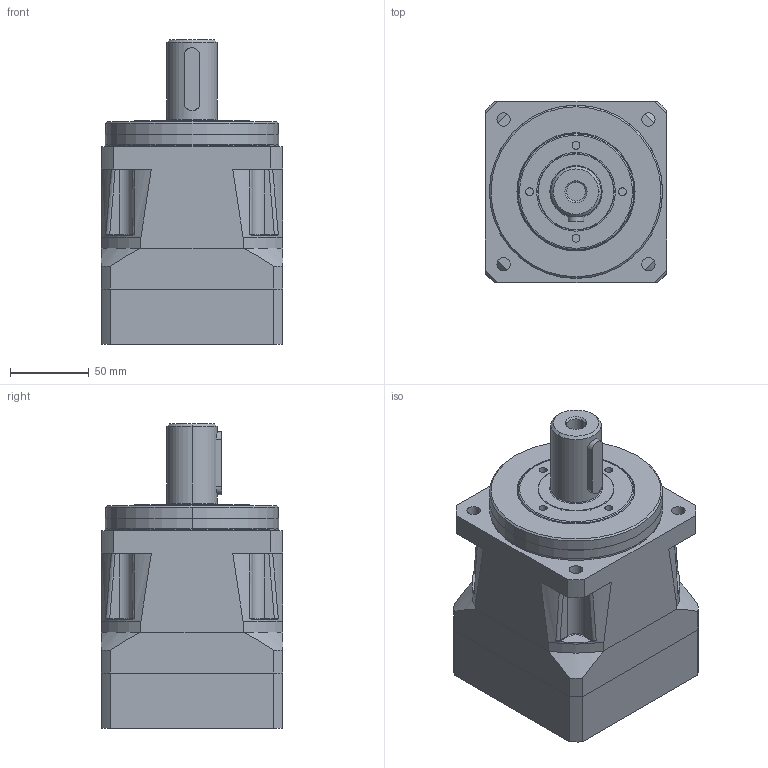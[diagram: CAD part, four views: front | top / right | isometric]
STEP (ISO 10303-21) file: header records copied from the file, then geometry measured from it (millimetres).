
FILE_DESCRIPTION((''),'2;1');
FILE_NAME('PS115-XXX-000-X2_ASM','2009-03-24T',('ata7311'),(''),'PRO/ENGINEER BY PARAMETRIC TECHNOLOGY CORPORATION, 2006300','PRO/ENGINEER BY PARAMETRIC TECHNOLOGY CORPORATION, 2006300','');
FILE_SCHEMA(('CONFIG_CONTROL_DESIGN'));
Products named in the file (14): 13359XXX; 13363000; HD202-0007; 10087125; 13355XXX_ASM; 13364000; 13360XXX; 13120003; M6X25; 12292001; 13356XXX_ASM; 13458005; M6X50; PS115-XXX-000-X2_ASM
Assembly tree (17 placements, depth 3):
  PS115-XXX-000-X2_ASM
    13355XXX_ASM
      13359XXX
      13363000
      HD202-0007
      10087125
    13356XXX_ASM
      13364000
      13360XXX
      13120003
      M6X25
      12292001  x2
    13458005
    M6X50  x4
Bounding box: 115 x 115.01 x 193.2 mm (x, y, z)
Volume: 1094035.2 mm3; surface area: 234693.6 mm2
Topology: 15 solids, 15 shells, 501 faces, 1163 edges, 748 vertices
Faces by surface type: cylinder 224, plane 179, cone 50, torus 24, bspline 24
Entity records: 14216 total; most frequent: CARTESIAN_POINT 3740, DIRECTION 2283, ORIENTED_EDGE 2026, EDGE_CURVE 1013, AXIS2_PLACEMENT_3D 943, VERTEX_POINT 650, EDGE_LOOP 519, CIRCLE 495
